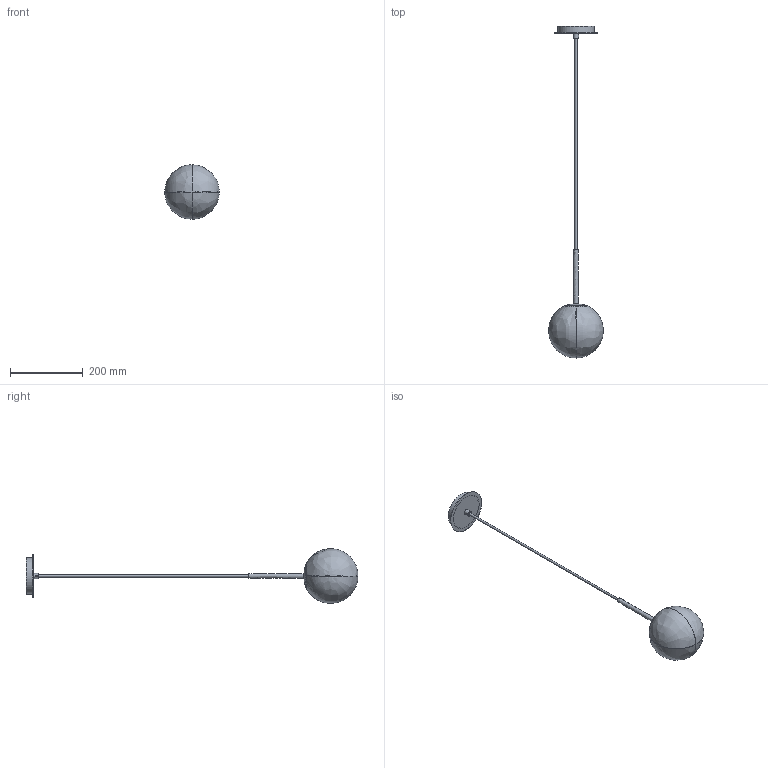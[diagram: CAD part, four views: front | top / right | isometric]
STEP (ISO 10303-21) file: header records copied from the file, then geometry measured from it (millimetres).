
FILE_DESCRIPTION(('FreeCAD Model'),'2;1');
FILE_NAME('Open CASCADE Shape Model','2022-12-21T10:40:05',('Author'),( ''),'Open CASCADE STEP processor 7.6','FreeCAD','Unknown');
FILE_SCHEMA(('AUTOMOTIVE_DESIGN { 1 0 10303 214 1 1 1 1 }'));
Length unit declared in the file: millimetre
Products named in the file (12): Unnamed2; PARMA_C3946080_3D; PARMA_C3946080_3D001; PARMA_C3946080_3D002; PARMA_C3946080_3D003; PARMA_C3946080_3D004; PARMA_C3946080_3D005; PARMA_C3946080_3D006; PARMA_C3946080_3D007; PARMA_C3946080_3D008; PARMA_C3946080_3D009; PARMA_C3946080_3D010
Assembly tree (11 placements, depth 2):
  Unnamed2
    PARMA_C3946080_3D
    PARMA_C3946080_3D001
    PARMA_C3946080_3D002
    PARMA_C3946080_3D003
    PARMA_C3946080_3D004
    PARMA_C3946080_3D005
    PARMA_C3946080_3D006
    PARMA_C3946080_3D007
    PARMA_C3946080_3D008
    PARMA_C3946080_3D009
    PARMA_C3946080_3D010
Bounding box: 150 x 912.62 x 150 mm (x, y, z)
Volume: 96511.7 mm3; surface area: 216587 mm2
Topology: 9 solids, 14 shells, 71 faces, 168 edges, 118 vertices
Faces by surface type: bspline 71
Entity records: 9460 total; most frequent: CARTESIAN_POINT 6717, ORIENTED_EDGE 295, PCURVE 295, DEFINITIONAL_REPRESENTATION 295, DIRECTION 218, LINE 194, VECTOR 194, B_SPLINE_CURVE_WITH_KNOTS 179
